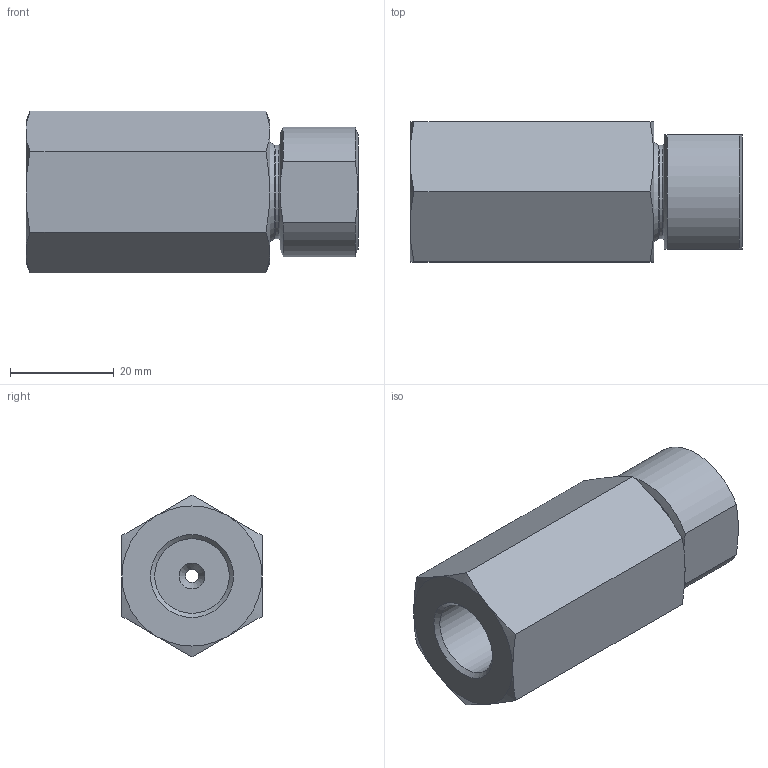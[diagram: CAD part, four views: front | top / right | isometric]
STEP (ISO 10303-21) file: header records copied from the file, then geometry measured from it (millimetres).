
FILE_DESCRIPTION(/* description */ (''),/* implementation_level */ '2;1');
FILE_NAME(/* name */ 'RV-H-2,5 STP.stp',/* time_stamp */ '2026-08-03T15:41:45+02:00',/* author */ ('janos'),/* organization */ (''),/* preprocessor_version */ 'ST-DEVELOPER v19.2',/* originating_system */ 'Autodesk Inventor 2024',/* authorisation */ '');
FILE_SCHEMA (('AUTOMOTIVE_DESIGN { 1 0 10303 214 3 1 1 }'));
Length unit declared in the file: millimetre
Products named in the file (1): RV.H.2,5.BG.1.1_Vereinfachen_1
Bounding box: 64 x 27 x 31.18 mm (x, y, z)
Volume: 33101.2 mm3; surface area: 8669.7 mm2
Topology: 1 solids, 1 shells, 49 faces, 104 edges, 63 vertices
Faces by surface type: cone 22, plane 16, cylinder 8, torus 3
Full cylindrical faces by diameter (mm): 2.5 x2, 5 x1, 14.376 x2, 18 x1
Entity records: 1398 total; most frequent: CARTESIAN_POINT 281, DIRECTION 222, ORIENTED_EDGE 208, EDGE_CURVE 104, AXIS2_PLACEMENT_3D 100, VERTEX_POINT 63, EDGE_LOOP 57, CIRCLE 50
